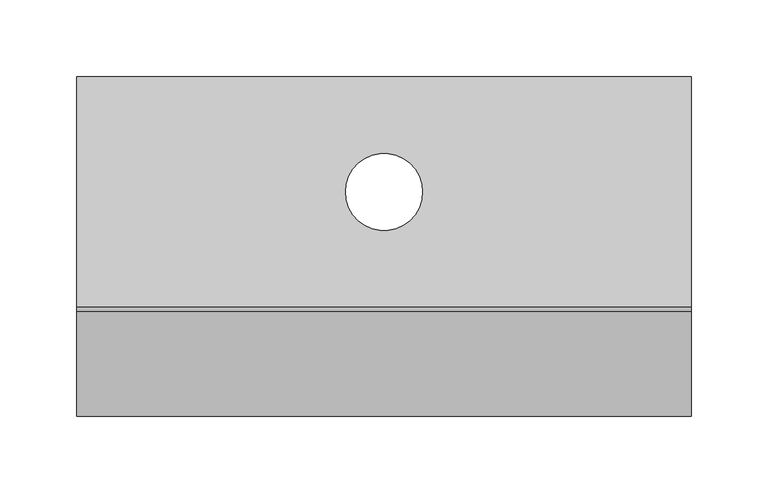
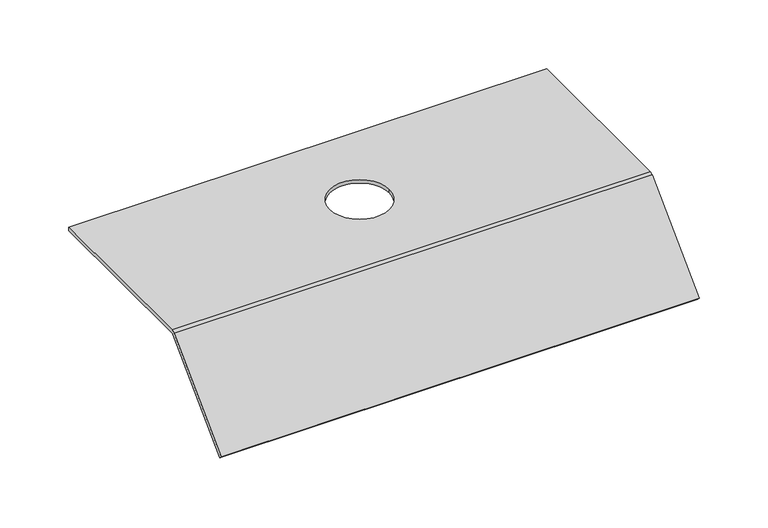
"""IFC4 building model written with IfcOpenShell, lengths in millimetres: proxy geometry, Electrical_Installation_Hager_Covers-With-Installation-Opening-GBZ : Electrical_Installation_Hager_Covers-With-Installation-Opening-GBZ."""

from ifc_helpers import new_model, si_unit, frame, origin, place, context, project, spatial, polyline, circle_curve, source, transform, mapped, element, save
from ifc_brep_helpers import plane_surface, cylinder_surface, revolved_surface, advanced_brep


def electrical_fixtures_09e81cb8(model_context):
    return source(origin(), model_context, "Body", "AdvancedBrep", [
        advanced_brep(
        [(0.0, 75.0, 40.5), (0.0, 75.0, 37.5), (0.0, -74.8229541, 37.5), (0.0, -75.8322972, 37.0819164), (0.0, -143.712807, -30.7985934), (0.0, -145.8341273, -28.6772731), (0.0, -77.8206472, 39.336207), (0.0, -75.0110025, 40.5), (400.0, 75.0, 40.5), (400.0, -75.0110025, 40.5), (400.0, -77.8206472, 39.336207), (400.0, -145.8341273, -28.6772731), (400.0, -143.712807, -30.7985934), (400.0, -75.8322972, 37.0819164), (400.0, -74.8229541, 37.5), (400.0, 75.0, 37.5), (175.0, 0.0, 37.5), (225.0, 0.0, 37.5), (225.0, 0.0, 40.5), (175.0, 0.0, 40.5)],
        [
            (0, 1),
            (1, 2),
            (2, 3, circle_curve(frame((0.0, -74.8229541, 36.0725733), z_axis=(1.0, 0.0, 0.0), x_axis=(0.0, 1.0, 0.0)), 1.4274267)),
            (3, 4),
            (4, 5),
            (5, 6),
            (6, 7, circle_curve(frame((0.0, -75.0110025, 36.5265623), z_axis=(-1.0, 0.0, 0.0), x_axis=(0.0, 1.0, 0.0)), 3.9734377)),
            (7, 0),
            (8, 9),
            (9, 10, circle_curve(frame((400.0, -75.0110025, 36.5265623), z_axis=(1.0, 0.0, 0.0), x_axis=(0.0, 1.0, 0.0)), 3.9734377)),
            (10, 11),
            (11, 12),
            (12, 13),
            (13, 14, circle_curve(frame((400.0, -74.8229541, 36.0725733), z_axis=(-1.0, 0.0, 0.0), x_axis=(0.0, 1.0, 0.0)), 1.4274267)),
            (14, 15),
            (15, 8),
            (0, 8),
            (15, 1),
            (14, 2),
            (16, 17, circle_curve(frame((200.0, 0.0, 37.5), z_axis=(0.0, 0.0, 1.0), x_axis=(1.0, 0.0, 0.0)), 25.0)),
            (17, 16, circle_curve(frame((200.0, 0.0, 37.5), z_axis=(0.0, 0.0, 1.0), x_axis=(1.0, 0.0, 0.0)), 25.0)),
            (13, 3),
            (12, 4),
            (11, 5),
            (10, 6),
            (9, 7),
            (18, 19, circle_curve(frame((200.0, 0.0, 40.5), z_axis=(0.0, 0.0, -1.0), x_axis=(1.0, 0.0, 0.0)), 25.0)),
            (19, 18, circle_curve(frame((200.0, 0.0, 40.5), z_axis=(0.0, 0.0, -1.0), x_axis=(1.0, 0.0, 0.0)), 25.0)),
            (16, 19),
            (18, 17),
        ],
        [
            plane_surface(frame((0.0, 0.3269864, 15.0), z_axis=(-1.0, 0.0, 0.0), x_axis=(0.0, 0.0, 1.0))),
            plane_surface(frame((400.0, 0.3269864, 15.0), z_axis=(1.0, 0.0, 0.0), x_axis=(0.0, 0.0, 1.0))),
            plane_surface(frame((0.0, 75.0, 40.5), z_axis=(0.0, 1.0, 0.0), x_axis=(1.0, 0.0, 0.0))),
            plane_surface(frame((0.0, 75.0, 37.5), z_axis=(0.0, 0.0, -1.0), x_axis=(1.0, 0.0, 0.0))),
            revolved_surface(polyline([(400.0, -73.3955274, 36.0725733), (0.0, -73.3955274, 36.0725733)]), (0.0, -74.8229541, 36.0725733), (1.0, 0.0, 0.0)),
            plane_surface(frame((0.0, -75.8322972, 37.0819164), z_axis=(0.0, 0.7071067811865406, -0.7071067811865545), x_axis=(1.0, 0.0, 0.0))),
            plane_surface(frame((0.0, -143.712807, -30.7985934), z_axis=(0.0, -0.7071067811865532, -0.7071067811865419), x_axis=(1.0, 0.0, 0.0))),
            plane_surface(frame((0.0, -145.8341273, -28.6772731), z_axis=(0.0, -0.7071067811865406, 0.7071067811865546), x_axis=(1.0, 0.0, 0.0))),
            cylinder_surface(frame((0.0, -75.0110025, 36.5265623), z_axis=(-1.0, 0.0, 0.0), x_axis=(0.0, 1.0, 0.0)), 3.9734377),
            plane_surface(frame((0.0, -75.0110025, 40.5), z_axis=(0.0, 0.0, 1.0), x_axis=(1.0, 0.0, 0.0))),
            revolved_surface(polyline([(225.0, 0.0, 40.5), (225.0, 0.0, 37.5)]), (200.0, 0.0, 0.0), (0.0, 0.0, 1.0)),
        ],
        [
            (0, [[1, 2, 3, 4, 5, 6, 7, 8]]),
            (1, [[9, 10, 11, 12, 13, 14, 15, 16]]),
            (2, [[-1, 17, -16, 18]]),
            (3, [[-2, -18, -15, 19], [20, 21]]),
            (4, [[-3, -19, -14, 22]]),
            (5, [[-4, -22, -13, 23]]),
            (6, [[-5, -23, -12, 24]]),
            (7, [[-6, -24, -11, 25]]),
            (8, [[-7, -25, -10, 26]]),
            (9, [[-8, -26, -9, -17], [27, 28]]),
            (10, [[29, -27, 30, -20]]),
            (10, [[-29, -21, -30, -28]]),
        ],
    ),
    ])


if __name__ == "__main__":
    model = new_model("IFC4")
    model_context = context("Model", 3, world=origin())
    ifc_project = project(units=[si_unit("LENGTHUNIT", "METRE", prefix="MILLI")], contexts=[model_context])
    site = spatial("IfcSite", under=ifc_project)
    building = spatial("IfcBuilding", under=site)
    placement = place(None, origin())
    electrical_fixtures_shape = electrical_fixtures_09e81cb8(model_context)
    element("IfcBuildingElementProxy", 1, Name="Electrical_Installation_Hager_Covers-With-Installation-Opening-GBZ : Electrical_Installation_Hager_Covers-With-Installation-Opening-GBZ", ObjectType="Electrical_Installation_Hager_Covers-With-Installation-Opening-GBZ : Electrical_Installation_Hager_Covers-With-Installation-Opening-GBZ", at=placement, inside=building, context=model_context, shape_type="MappedRepresentation", body=[
        mapped(electrical_fixtures_shape, transform((0.0, 0.0, 0.0), x_axis=(1.0, 0.0, 0.0), y_axis=(0.0, 1.0, 0.0), z_axis=(0.0, 0.0, 1.0))),
    ])
    save(model, "model.ifc")
